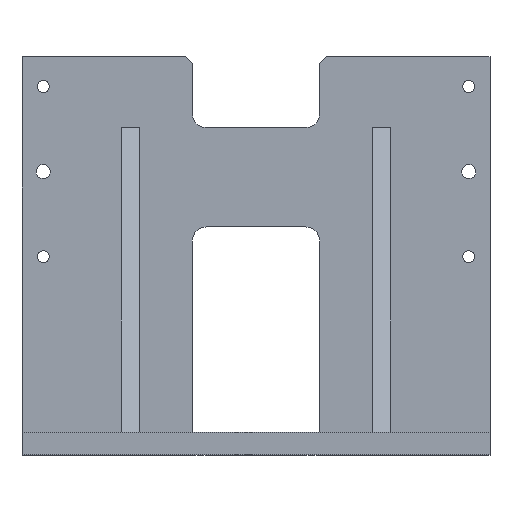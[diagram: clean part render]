
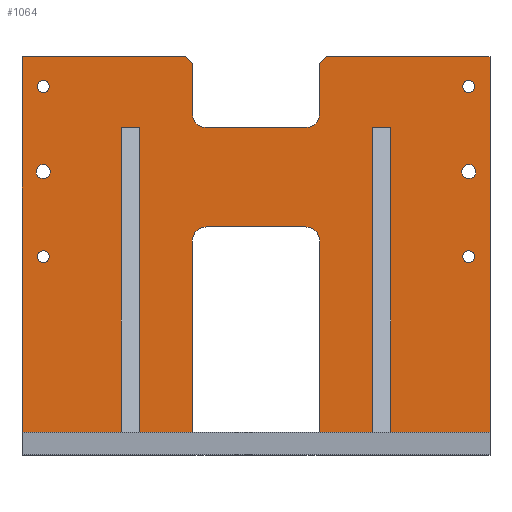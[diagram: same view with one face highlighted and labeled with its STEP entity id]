
A CAD part, top view. The second image highlights one B-rep face of the part: STEP entity #1064.
In plain terms, the highlighted planar face has unit normal (0, 0, 1).
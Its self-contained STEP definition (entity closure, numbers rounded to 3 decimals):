
#30=FACE_BOUND($,#174,.T.);
#31=FACE_BOUND($,#175,.T.);
#32=FACE_BOUND($,#176,.T.);
#33=FACE_BOUND($,#177,.T.);
#34=FACE_BOUND($,#178,.T.);
#35=FACE_BOUND($,#179,.T.);
#67=PLANE($,#1147);
#105=FACE_OUTER_BOUND($,#173,.T.);
#173=EDGE_LOOP($,(#858,#859,#860,#861,#862,#863,#864,#865,#866,#867,#868,
#869,#870,#871,#872,#873,#874,#875,#876,#877,#878,#879,#880,#881,#882,#883));
#174=EDGE_LOOP($,(#884));
#175=EDGE_LOOP($,(#885));
#176=EDGE_LOOP($,(#886));
#177=EDGE_LOOP($,(#887));
#178=EDGE_LOOP($,(#888));
#179=EDGE_LOOP($,(#889));
#225=LINE($,#1484,#327);
#235=LINE($,#1508,#337);
#242=LINE($,#1525,#344);
#244=LINE($,#1529,#346);
#248=LINE($,#1537,#350);
#252=LINE($,#1545,#354);
#256=LINE($,#1552,#358);
#277=LINE($,#1620,#379);
#283=LINE($,#1631,#385);
#292=LINE($,#1665,#394);
#294=LINE($,#1669,#396);
#298=LINE($,#1680,#400);
#299=LINE($,#1683,#401);
#300=LINE($,#1685,#402);
#301=LINE($,#1686,#403);
#302=LINE($,#1688,#404);
#303=LINE($,#1689,#405);
#304=LINE($,#1691,#406);
#305=LINE($,#1692,#407);
#306=LINE($,#1694,#408);
#307=LINE($,#1696,#409);
#308=LINE($,#1697,#410);
#327=VECTOR($,#1205,70.);
#337=VECTOR($,#1223,135.);
#344=VECTOR($,#1238,135.);
#346=VECTOR($,#1242,37.3);
#350=VECTOR($,#1246,70.);
#354=VECTOR($,#1250,70.);
#358=VECTOR($,#1254,37.3);
#379=VECTOR($,#1317,7.071);
#385=VECTOR($,#1325,35.);
#394=VECTOR($,#1354,7.071);
#396=VECTOR($,#1358,35.);
#400=VECTOR($,#1372,70.);
#401=VECTOR($,#1375,215.);
#402=VECTOR($,#1376,12.7);
#403=VECTOR($,#1377,215.);
#404=VECTOR($,#1378,265.);
#405=VECTOR($,#1379,115.);
#406=VECTOR($,#1380,115.);
#407=VECTOR($,#1381,265.);
#408=VECTOR($,#1382,215.);
#409=VECTOR($,#1383,12.7);
#410=VECTOR($,#1384,215.);
#423=CIRCLE($,#1098,10.);
#425=CIRCLE($,#1102,10.);
#448=CIRCLE($,#1143,10.);
#449=CIRCLE($,#1145,10.);
#450=CIRCLE($,#1148,5.);
#451=CIRCLE($,#1149,5.);
#452=CIRCLE($,#1150,4.188);
#453=CIRCLE($,#1151,4.188);
#454=CIRCLE($,#1152,4.188);
#455=CIRCLE($,#1153,4.188);
#464=VERTEX_POINT($,#1474);
#465=VERTEX_POINT($,#1476);
#467=VERTEX_POINT($,#1482);
#469=VERTEX_POINT($,#1488);
#477=VERTEX_POINT($,#1506);
#483=VERTEX_POINT($,#1524);
#484=VERTEX_POINT($,#1528);
#487=VERTEX_POINT($,#1534);
#488=VERTEX_POINT($,#1536);
#491=VERTEX_POINT($,#1542);
#492=VERTEX_POINT($,#1544);
#495=VERTEX_POINT($,#1550);
#520=VERTEX_POINT($,#1618);
#521=VERTEX_POINT($,#1619);
#525=VERTEX_POINT($,#1629);
#539=VERTEX_POINT($,#1662);
#540=VERTEX_POINT($,#1664);
#541=VERTEX_POINT($,#1668);
#542=VERTEX_POINT($,#1672);
#543=VERTEX_POINT($,#1676);
#544=VERTEX_POINT($,#1682);
#545=VERTEX_POINT($,#1684);
#546=VERTEX_POINT($,#1687);
#547=VERTEX_POINT($,#1690);
#548=VERTEX_POINT($,#1693);
#549=VERTEX_POINT($,#1695);
#550=VERTEX_POINT($,#1698);
#551=VERTEX_POINT($,#1700);
#552=VERTEX_POINT($,#1702);
#553=VERTEX_POINT($,#1704);
#554=VERTEX_POINT($,#1706);
#555=VERTEX_POINT($,#1708);
#565=EDGE_CURVE($,#464,#465,#423,.T.);
#569=EDGE_CURVE($,#464,#467,#225,.T.);
#572=EDGE_CURVE($,#469,#467,#425,.T.);
#581=EDGE_CURVE($,#469,#477,#235,.T.);
#590=EDGE_CURVE($,#483,#465,#242,.T.);
#592=EDGE_CURVE($,#484,#483,#244,.T.);
#596=EDGE_CURVE($,#488,#487,#248,.T.);
#600=EDGE_CURVE($,#492,#491,#252,.T.);
#604=EDGE_CURVE($,#477,#495,#256,.T.);
#637=EDGE_CURVE($,#520,#521,#277,.T.);
#643=EDGE_CURVE($,#520,#525,#283,.T.);
#660=EDGE_CURVE($,#539,#540,#292,.T.);
#662=EDGE_CURVE($,#541,#540,#294,.T.);
#664=EDGE_CURVE($,#542,#525,#448,.T.);
#666=EDGE_CURVE($,#541,#543,#449,.T.);
#668=EDGE_CURVE($,#542,#543,#298,.T.);
#669=EDGE_CURVE($,#495,#544,#299,.T.);
#670=EDGE_CURVE($,#544,#545,#300,.T.);
#671=EDGE_CURVE($,#545,#492,#301,.T.);
#672=EDGE_CURVE($,#491,#546,#302,.T.);
#673=EDGE_CURVE($,#546,#521,#303,.T.);
#674=EDGE_CURVE($,#539,#547,#304,.T.);
#675=EDGE_CURVE($,#547,#488,#305,.T.);
#676=EDGE_CURVE($,#487,#548,#306,.T.);
#677=EDGE_CURVE($,#548,#549,#307,.T.);
#678=EDGE_CURVE($,#549,#484,#308,.T.);
#679=EDGE_CURVE($,#550,#550,#450,.T.);
#680=EDGE_CURVE($,#551,#551,#451,.T.);
#681=EDGE_CURVE($,#552,#552,#452,.T.);
#682=EDGE_CURVE($,#553,#553,#453,.T.);
#683=EDGE_CURVE($,#554,#554,#454,.T.);
#684=EDGE_CURVE($,#555,#555,#455,.T.);
#858=ORIENTED_EDGE($,*,*,#581,.T.);
#859=ORIENTED_EDGE($,*,*,#604,.T.);
#860=ORIENTED_EDGE($,*,*,#669,.T.);
#861=ORIENTED_EDGE($,*,*,#670,.T.);
#862=ORIENTED_EDGE($,*,*,#671,.T.);
#863=ORIENTED_EDGE($,*,*,#600,.T.);
#864=ORIENTED_EDGE($,*,*,#672,.T.);
#865=ORIENTED_EDGE($,*,*,#673,.T.);
#866=ORIENTED_EDGE($,*,*,#637,.F.);
#867=ORIENTED_EDGE($,*,*,#643,.T.);
#868=ORIENTED_EDGE($,*,*,#664,.F.);
#869=ORIENTED_EDGE($,*,*,#668,.T.);
#870=ORIENTED_EDGE($,*,*,#666,.F.);
#871=ORIENTED_EDGE($,*,*,#662,.T.);
#872=ORIENTED_EDGE($,*,*,#660,.F.);
#873=ORIENTED_EDGE($,*,*,#674,.T.);
#874=ORIENTED_EDGE($,*,*,#675,.T.);
#875=ORIENTED_EDGE($,*,*,#596,.T.);
#876=ORIENTED_EDGE($,*,*,#676,.T.);
#877=ORIENTED_EDGE($,*,*,#677,.T.);
#878=ORIENTED_EDGE($,*,*,#678,.T.);
#879=ORIENTED_EDGE($,*,*,#592,.T.);
#880=ORIENTED_EDGE($,*,*,#590,.T.);
#881=ORIENTED_EDGE($,*,*,#565,.F.);
#882=ORIENTED_EDGE($,*,*,#569,.T.);
#883=ORIENTED_EDGE($,*,*,#572,.F.);
#884=ORIENTED_EDGE($,*,*,#679,.T.);
#885=ORIENTED_EDGE($,*,*,#680,.T.);
#886=ORIENTED_EDGE($,*,*,#681,.T.);
#887=ORIENTED_EDGE($,*,*,#682,.T.);
#888=ORIENTED_EDGE($,*,*,#683,.T.);
#889=ORIENTED_EDGE($,*,*,#684,.T.);
#1064=ADVANCED_FACE($,(#105,#30,#31,#32,#33,#34,#35),#67,.T.);
#1098=AXIS2_PLACEMENT_3D($,#1477,#1198,#1199);
#1102=AXIS2_PLACEMENT_3D($,#1490,#1211,#1212);
#1143=AXIS2_PLACEMENT_3D($,#1673,#1362,#1363);
#1145=AXIS2_PLACEMENT_3D($,#1677,#1367,#1368);
#1147=AXIS2_PLACEMENT_3D($,#1681,#1373,#1374);
#1148=AXIS2_PLACEMENT_3D($,#1699,#1385,#1386);
#1149=AXIS2_PLACEMENT_3D($,#1701,#1387,#1388);
#1150=AXIS2_PLACEMENT_3D($,#1703,#1389,#1390);
#1151=AXIS2_PLACEMENT_3D($,#1705,#1391,#1392);
#1152=AXIS2_PLACEMENT_3D($,#1707,#1393,#1394);
#1153=AXIS2_PLACEMENT_3D($,#1709,#1395,#1396);
#1198=DIRECTION('center_axis',(0.,0.,1.));
#1199=DIRECTION('ref_axis',(-0.707,0.707,0.));
#1205=DIRECTION($,(1.,0.,0.));
#1211=DIRECTION('center_axis',(0.,0.,1.));
#1212=DIRECTION('ref_axis',(0.707,0.707,0.));
#1223=DIRECTION($,(0.,-1.,0.));
#1238=DIRECTION($,(0.,1.,0.));
#1242=DIRECTION($,(1.,0.,0.));
#1246=DIRECTION($,(1.,0.,0.));
#1250=DIRECTION($,(1.,0.,0.));
#1254=DIRECTION($,(1.,0.,0.));
#1317=DIRECTION($,(0.707,0.707,0.));
#1325=DIRECTION($,(0.,-1.,0.));
#1354=DIRECTION($,(0.707,-0.707,0.));
#1358=DIRECTION($,(0.,1.,0.));
#1362=DIRECTION('center_axis',(0.,0.,1.));
#1363=DIRECTION('ref_axis',(0.707,-0.707,0.));
#1367=DIRECTION('center_axis',(0.,0.,1.));
#1368=DIRECTION('ref_axis',(-0.707,-0.707,0.));
#1372=DIRECTION($,(-1.,0.,0.));
#1373=DIRECTION('center_axis',(0.,0.,1.));
#1374=DIRECTION('ref_axis',(1.,0.,0.));
#1375=DIRECTION($,(0.,1.,0.));
#1376=DIRECTION($,(1.,0.,0.));
#1377=DIRECTION($,(0.,-1.,0.));
#1378=DIRECTION($,(0.,1.,0.));
#1379=DIRECTION($,(-1.,0.,0.));
#1380=DIRECTION($,(-1.,0.,0.));
#1381=DIRECTION($,(0.,-1.,0.));
#1382=DIRECTION($,(0.,1.,0.));
#1383=DIRECTION($,(1.,0.,0.));
#1384=DIRECTION($,(0.,-1.,0.));
#1385=DIRECTION('center_axis',(0.,0.,-1.));
#1386=DIRECTION('ref_axis',(-1.,0.,0.));
#1387=DIRECTION('center_axis',(0.,0.,-1.));
#1388=DIRECTION('ref_axis',(-1.,0.,0.));
#1389=DIRECTION('center_axis',(0.,0.,-1.));
#1390=DIRECTION('ref_axis',(-1.,0.,0.));
#1391=DIRECTION('center_axis',(0.,0.,-1.));
#1392=DIRECTION('ref_axis',(-1.,0.,0.));
#1393=DIRECTION('center_axis',(0.,0.,-1.));
#1394=DIRECTION('ref_axis',(-1.,0.,0.));
#1395=DIRECTION('center_axis',(0.,0.,-1.));
#1396=DIRECTION('ref_axis',(-1.,0.,0.));
#1474=CARTESIAN_POINT('',(-35.,12.5,19.05));
#1476=CARTESIAN_POINT('',(-45.,2.5,19.05));
#1477=CARTESIAN_POINT('Origin',(-35.,2.5,19.05));
#1482=CARTESIAN_POINT('',(35.,12.5,19.05));
#1484=CARTESIAN_POINT($,(22.5,12.5,19.05));
#1488=CARTESIAN_POINT('',(45.,2.5,19.05));
#1490=CARTESIAN_POINT('Origin',(35.,2.5,19.05));
#1506=CARTESIAN_POINT('',(45.,-132.5,19.05));
#1508=CARTESIAN_POINT($,(45.,-74.25,19.05));
#1524=CARTESIAN_POINT('',(-45.,-132.5,19.05));
#1525=CARTESIAN_POINT($,(-45.,6.25,19.05));
#1528=CARTESIAN_POINT('',(-82.3,-132.5,19.05));
#1529=CARTESIAN_POINT($,(165.,-132.5,19.05));
#1534=CARTESIAN_POINT('',(-95.,-132.5,19.05));
#1536=CARTESIAN_POINT('',(-165.,-132.5,19.05));
#1537=CARTESIAN_POINT($,(165.,-132.5,19.05));
#1542=CARTESIAN_POINT('',(165.,-132.5,19.05));
#1544=CARTESIAN_POINT('',(95.,-132.5,19.05));
#1545=CARTESIAN_POINT($,(165.,-132.5,19.05));
#1550=CARTESIAN_POINT('',(82.3,-132.5,19.05));
#1552=CARTESIAN_POINT($,(165.,-132.5,19.05));
#1618=CARTESIAN_POINT('',(45.,127.5,19.05));
#1619=CARTESIAN_POINT('',(50.,132.5,19.05));
#1620=CARTESIAN_POINT($,(3.125,85.625,19.05));
#1629=CARTESIAN_POINT('',(45.,92.5,19.05));
#1631=CARTESIAN_POINT($,(45.,66.25,19.05));
#1662=CARTESIAN_POINT('',(-50.,132.5,19.05));
#1664=CARTESIAN_POINT('',(-45.,127.5,19.05));
#1665=CARTESIAN_POINT($,(-3.125,85.625,19.05));
#1668=CARTESIAN_POINT('',(-45.,92.5,19.05));
#1669=CARTESIAN_POINT($,(-45.,41.25,19.05));
#1672=CARTESIAN_POINT('',(35.,82.5,19.05));
#1673=CARTESIAN_POINT('Origin',(35.,92.5,19.05));
#1676=CARTESIAN_POINT('',(-35.,82.5,19.05));
#1677=CARTESIAN_POINT('Origin',(-35.,92.5,19.05));
#1680=CARTESIAN_POINT($,(22.5,82.5,19.05));
#1681=CARTESIAN_POINT('Origin',(0.,0.,
19.05));
#1682=CARTESIAN_POINT('',(82.3,82.5,19.05));
#1683=CARTESIAN_POINT($,(82.3,-24.037,19.05));
#1684=CARTESIAN_POINT('',(95.,82.5,19.05));
#1685=CARTESIAN_POINT($,(47.5,82.5,19.05));
#1686=CARTESIAN_POINT($,(95.,-24.037,19.05));
#1687=CARTESIAN_POINT('',(165.,132.5,19.05));
#1688=CARTESIAN_POINT($,(165.,132.5,19.05));
#1689=CARTESIAN_POINT($,(-165.,132.5,19.05));
#1690=CARTESIAN_POINT('',(-165.,132.5,19.05));
#1691=CARTESIAN_POINT($,(-165.,132.5,19.05));
#1692=CARTESIAN_POINT($,(-165.,-132.5,19.05));
#1693=CARTESIAN_POINT('',(-95.,82.5,19.05));
#1694=CARTESIAN_POINT($,(-95.,-24.037,19.05));
#1695=CARTESIAN_POINT('',(-82.3,82.5,19.05));
#1696=CARTESIAN_POINT($,(-47.5,82.5,19.05));
#1697=CARTESIAN_POINT($,(-82.3,-24.037,19.05));
#1698=CARTESIAN_POINT('',(-145.,51.5,19.05));
#1699=CARTESIAN_POINT('Origin',(-150.,51.5,19.05));
#1700=CARTESIAN_POINT('',(155.,51.5,19.05));
#1701=CARTESIAN_POINT('Origin',(150.,51.5,19.05));
#1702=CARTESIAN_POINT('',(-145.812,-8.5,19.05));
#1703=CARTESIAN_POINT('Origin',(-150.,-8.5,19.05));
#1704=CARTESIAN_POINT('',(154.188,111.5,19.05));
#1705=CARTESIAN_POINT('Origin',(150.,111.5,19.05));
#1706=CARTESIAN_POINT('',(154.188,-8.5,19.05));
#1707=CARTESIAN_POINT('Origin',(150.,-8.5,19.05));
#1708=CARTESIAN_POINT('',(-145.812,111.5,19.05));
#1709=CARTESIAN_POINT('Origin',(-150.,111.5,19.05));
